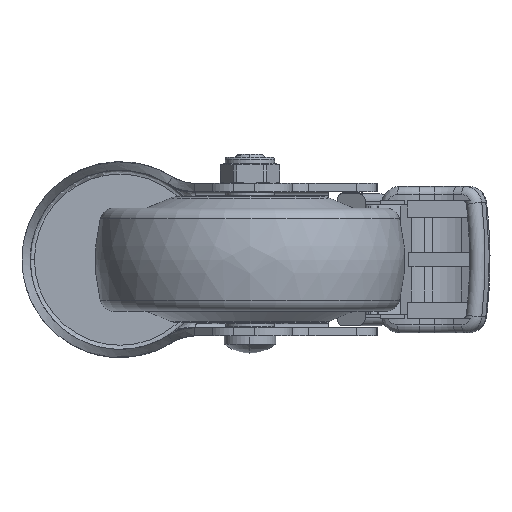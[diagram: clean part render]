
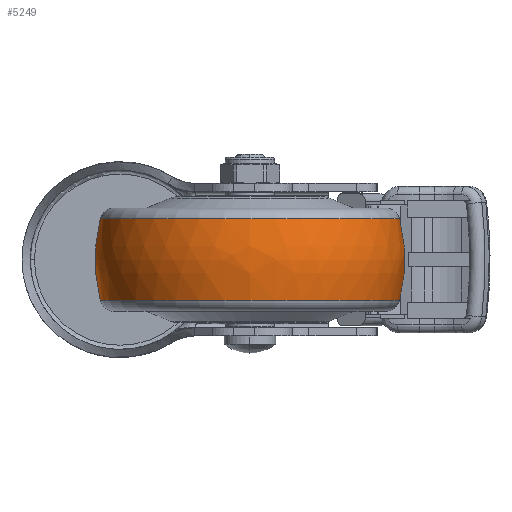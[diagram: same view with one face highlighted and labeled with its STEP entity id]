
A CAD part, front view. The second image highlights one B-rep face of the part: STEP entity #5249.
In plain terms, the highlighted free-form (B-spline) face has degree [3, 3] with [7, 4] control points.
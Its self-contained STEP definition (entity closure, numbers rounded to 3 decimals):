
#4787=CARTESIAN_POINT('',(0.,-2.5,0.));
#4788=DIRECTION('',(0.,0.,1.));
#4789=DIRECTION('',(0.247,0.969,0.));
#4790=AXIS2_PLACEMENT_3D('',#4787,#4788,#4789);
#4792=CARTESIAN_POINT('',(0.,2.5,0.));
#4793=DIRECTION('',(0.,0.,-1.));
#4794=DIRECTION('',(0.247,-0.969,0.));
#4795=AXIS2_PLACEMENT_3D('',#4792,#4793,#4794);
#4797=CARTESIAN_POINT('',(9.863,0.,0.));
#4798=DIRECTION('',(-1.,0.,0.));
#4799=DIRECTION('',(0.,1.,0.));
#4800=AXIS2_PLACEMENT_3D('',#4797,#4798,#4799);
#4812=CARTESIAN_POINT('',(-9.863,0.,0.));
#4813=DIRECTION('',(-1.,0.,0.));
#4814=DIRECTION('',(0.,1.,0.));
#4815=AXIS2_PLACEMENT_3D('',#4812,#4813,#4814);
#5092=CARTESIAN_POINT('',(9.863,36.265,0.));
#5093=CARTESIAN_POINT('',(-9.863,36.265,0.));
#5094=VERTEX_POINT('',#5092);
#5095=VERTEX_POINT('',#5093);
#5132=CARTESIAN_POINT('',(9.863,-36.265,0.));
#5133=CARTESIAN_POINT('',(-9.863,-36.265,0.));
#5134=VERTEX_POINT('',#5132);
#5135=VERTEX_POINT('',#5133);
#5212=CARTESIAN_POINT('',(-10.249,-36.093,
2.271));
#5213=CARTESIAN_POINT('',(-3.494,-37.88,
2.383));
#5214=CARTESIAN_POINT('',(3.494,-37.88,2.383));
#5215=CARTESIAN_POINT('',(10.249,-36.093,2.271));
#5216=CARTESIAN_POINT('',(-10.249,-37.491,
-19.941));
#5217=CARTESIAN_POINT('',(-3.494,-39.347,
-20.928));
#5218=CARTESIAN_POINT('',(3.494,-39.347,
-20.928));
#5219=CARTESIAN_POINT('',(10.249,-37.491,
-19.941));
#5220=CARTESIAN_POINT('',(-10.249,-22.256,
-36.165));
#5221=CARTESIAN_POINT('',(-3.494,-23.358,
-37.955));
#5222=CARTESIAN_POINT('',(3.494,-23.358,
-37.955));
#5223=CARTESIAN_POINT('',(10.249,-22.256,
-36.165));
#5224=CARTESIAN_POINT('',(-10.249,0.,-36.165));
#5225=CARTESIAN_POINT('',(-3.494,0.,-37.955));
#5226=CARTESIAN_POINT('',(3.494,0.,-37.955));
#5227=CARTESIAN_POINT('',(10.249,0.,-36.165));
#5228=CARTESIAN_POINT('',(-10.249,22.256,
-36.165));
#5229=CARTESIAN_POINT('',(-3.494,23.358,
-37.955));
#5230=CARTESIAN_POINT('',(3.494,23.358,-37.955));
#5231=CARTESIAN_POINT('',(10.249,22.256,-36.165));
#5232=CARTESIAN_POINT('',(-10.249,37.491,
-19.941));
#5233=CARTESIAN_POINT('',(-3.494,39.347,
-20.928));
#5234=CARTESIAN_POINT('',(3.494,39.347,-20.928));
#5235=CARTESIAN_POINT('',(10.249,37.491,-19.941));
#5236=CARTESIAN_POINT('',(-10.249,36.093,2.271));
#5237=CARTESIAN_POINT('',(-3.494,37.88,2.383));
#5238=CARTESIAN_POINT('',(3.494,37.88,2.383));
#5239=CARTESIAN_POINT('',(10.249,36.093,2.271));
#5240=(BOUNDED_SURFACE()B_SPLINE_SURFACE(3,3,((#5212,#5213,#5214,#5215),(#5216,
#5217,#5218,#5219),(#5220,#5221,#5222,#5223),(#5224,#5225,#5226,#5227),(#5228,
#5229,#5230,#5231),(#5232,#5233,#5234,#5235),(#5236,#5237,#5238,#5239)),
.UNSPECIFIED.,.F.,.F.,.F.)B_SPLINE_SURFACE_WITH_KNOTS((4,3,4),(4,4),(0.,1.,
2.),(0.,1.),.UNSPECIFIED.)GEOMETRIC_REPRESENTATION_ITEM()RATIONAL_B_SPLINE_SURFACE(((1.207,1.181,1.181,1.207),(
0.953,0.932,0.932,0.953),(
0.953,0.932,0.932,0.953),(
1.207,1.181,1.181,1.207),(
0.953,0.932,0.932,0.953),(
0.953,0.932,0.932,0.953),(
1.207,1.181,1.181,1.207)))REPRESENTATION_ITEM('')SURFACE());
#5241=ORIENTED_EDGE('',*,*,#5201,.T.);
#5243=ORIENTED_EDGE('',*,*,#5242,.T.);
#5244=ORIENTED_EDGE('',*,*,#5205,.F.);
#5246=ORIENTED_EDGE('',*,*,#5245,.F.);
#5247=EDGE_LOOP('',(#5241,#5243,#5244,#5246));
#5248=FACE_OUTER_BOUND('',#5247,.F.);
#4791=CIRCLE('',#4790,40.);
#4796=CIRCLE('',#4795,40.);
#4801=CIRCLE('',#4800,36.265);
#4816=CIRCLE('',#4815,36.265);
#5201=EDGE_CURVE('',#5094,#5095,#4791,.T.);
#5205=EDGE_CURVE('',#5134,#5135,#4796,.T.);
#5242=EDGE_CURVE('',#5095,#5135,#4816,.T.);
#5245=EDGE_CURVE('',#5094,#5134,#4801,.T.);
#5249=ADVANCED_FACE('',(#5248),#5240,.T.);
